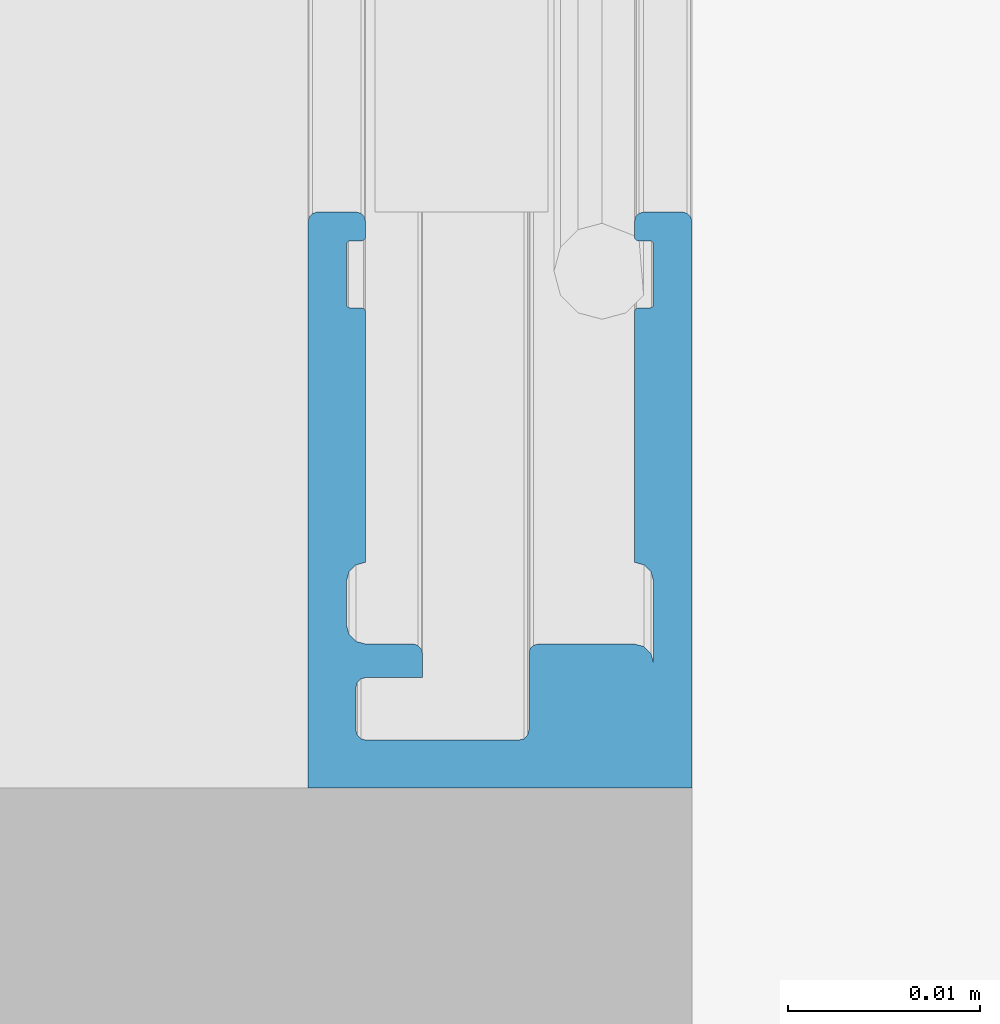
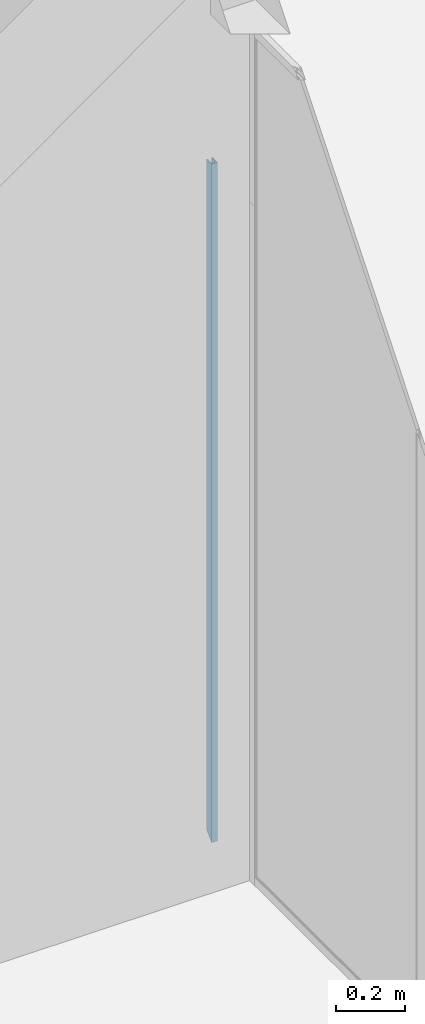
# One storey, part 62 of 387: 1 building element part, 2 elements without a shape of their own.
"""IFC2X3 building model written with IfcOpenShell, lengths in millimetres."""

from ifc_helpers import new_model, entity, si_unit, converted_unit, derived_unit, money_unit, direction, frame, origin_with_axes, place, context, subcontext, project, spatial, faceted_brep, source, transform, mapped, material, type_object, element, aggregate, save


model = new_model("IFC2X3")

# Units and contexts
model_context = context("Model", 3, precision=0.01, world=origin_with_axes(), true_north=direction((0.0, 1.0)))
body_context = subcontext(model_context, "Body", "Model", "MODEL_VIEW")
ifc_project = project(units=[si_unit("LENGTHUNIT", "METRE", prefix="MILLI"), si_unit("AREAUNIT", "SQUARE_METRE"), si_unit("VOLUMEUNIT", "CUBIC_METRE"), converted_unit("PLANEANGLEUNIT", "DEGREE", entity("IfcPlaneAngleMeasure", 0.0174532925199), si_unit("PLANEANGLEUNIT", "RADIAN"), dimensions=[0, 0, 0, 0, 0, 0, 0]), si_unit("SOLIDANGLEUNIT", "STERADIAN"), money_unit("EUR"), converted_unit("TIMEUNIT", "Year", entity("IfcTimeMeasure", 31556926.0), si_unit("TIMEUNIT", "SECOND"), dimensions=[0, 0, 1, 0, 0, 0, 0]), si_unit("MASSUNIT", "GRAM", prefix="KILO"), si_unit("THERMODYNAMICTEMPERATUREUNIT", "DEGREE_CELSIUS"), si_unit("LUMINOUSINTENSITYUNIT", "LUMEN"), si_unit("ENERGYUNIT", "JOULE", prefix="MEGA"), derived_unit("THERMALCONDUCTANCEUNIT", [(si_unit("POWERUNIT", "WATT"), 1), (si_unit("LENGTHUNIT", "METRE"), -1), (si_unit("THERMODYNAMICTEMPERATUREUNIT", "KELVIN"), -1)]), derived_unit("SPECIFICHEATCAPACITYUNIT", [(si_unit("ENERGYUNIT", "JOULE"), 1), (si_unit("MASSUNIT", "GRAM", prefix="KILO"), -1), (si_unit("THERMODYNAMICTEMPERATUREUNIT", "KELVIN"), -1)]), derived_unit("MASSDENSITYUNIT", [(si_unit("MASSUNIT", "GRAM", prefix="KILO"), 1), (si_unit("VOLUMEUNIT", "CUBIC_METRE"), -1)])], contexts=[model_context])

# Site, building, storey
site_placement = place(None, origin_with_axes())
site = spatial("IfcSite", under=ifc_project, at=site_placement, Name="Puškini 31, Narva", CompositionType="ELEMENT")
building_placement = place(site_placement, origin_with_axes())
building = spatial("IfcBuilding", under=site, at=building_placement, Name="Narva Riigigümnaasium", CompositionType="ELEMENT")
storey_placement = place(building_placement, frame((0.0, 0.0, 2640.0), z_axis=(0.0, 0.0, 1.0), x_axis=(1.0, 0.0, 0.0)))
storey = spatial("IfcBuildingStorey", under=building, at=storey_placement, Name="2.korrus +2.64", CompositionType="ELEMENT", Elevation=2640.0)

# Curtain wall, member, building element part
curtain_wall_type = type_object("IfcCurtainWallType", Name="Curtain Wall Type", PredefinedType="NOTDEFINED")
curtain_wall_placement = place(storey_placement, frame((28390.0000002, 176724.161139, -5.42380846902e-05), z_axis=(0.0, 0.0, 1.0), x_axis=(1.0, 0.0, 0.0)))
curtain_wall = element("IfcCurtainWall", 1, at=curtain_wall_placement, inside=storey, type_object=curtain_wall_type, Name="G-SKLF-12")
member_type = type_object("IfcMemberType", Name="30 x 10", PredefinedType="MULLION")
member_placement = place(curtain_wall_placement, frame((1.72022396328e-08, -1114.16106877, 0.0), z_axis=(0.0, 5.71766621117e-08, 1.0), x_axis=(0.0, 1.0, -5.71766621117e-08)))
member = element("IfcMember", 2, at=member_placement, type_object=member_type, Name="G-SKLF-17-raam", ObjectType="MULLION")
aggregate(curtain_wall, [member])
ifc_material = material(Name="ET-04_Alumiinium")
shared_shape = source(origin_with_axes(), body_context, "Body", "Brep", [
    faceted_brep([(0.0, -9.99999999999, 0.0), (0.0, 9.99999999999, 0.0), (0.0, 9.99999999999, 2400.00001337), (0.0, -9.99999999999, 2400.00001337), (-29.4424074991, -9.99999999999, 29.4424074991), (-29.7157683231, -9.95182408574, 29.7157683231), (-29.9224245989, -9.76651288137, 29.9224245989), (-30.0, -9.5, 30.0), (-30.0, -7.49999999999, 30.0), (-29.9330127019, -7.24999999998, 29.9330127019), (-29.75, -7.06698729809, 29.75), (-29.5, -6.99999999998, 29.5), (-28.7, -6.99999999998, 28.7), (-28.6, -7.02679491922, 28.6), (-28.5267949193, -7.09999999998, 28.5267949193), (-28.5, -7.19999999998, 28.5), (-28.5, -7.79999999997, 28.5), (-28.4732050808, -7.89999999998, 28.4732050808), (-28.4, -7.97320508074, 28.4), (-28.3, -7.99999999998, 28.3), (-25.2, -7.99999999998, 25.2), (-25.1, -7.97320508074, 25.1), (-25.0267949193, -7.89999999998, 25.0267949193), (-25.0, -7.79999999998, 25.0), (-25.0, -7.20000000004, 25.0), (-24.9732050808, -7.10000000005, 24.9732050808), (-24.9, -7.02679491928, 24.9), (-24.8, -7.00000000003, 24.8), (-11.7527616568, -6.99999999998, 11.7527616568), (-11.6187870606, -7.49999999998, 11.6187870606), (-11.2527616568, -7.86602540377, 11.2527616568), (-10.7527616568, -7.99999999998, 10.7527616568), (-8.49999999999, -8.00000000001, 8.49999999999), (-7.99999999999, -7.86602540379, 7.99999999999), (-7.63397459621, -7.50000000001, 7.63397459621), (-7.49999999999, -7.00000000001, 7.49999999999), (-7.49999999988, -4.5336921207, 7.49999999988), (-7.43301270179, -4.28369212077, 7.43301270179), (-7.24999999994, -4.10067941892, 7.24999999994), (-7.0, -4.03369212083, 7.0), (-5.74723834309, -4.03369212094, 5.74723834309), (-5.7472383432, -6.99999999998, 5.7472383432), (-5.6802510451, -7.24999999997, 5.6802510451), (-5.49723834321, -7.43301270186, 5.49723834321), (-5.24723834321, -7.49999999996, 5.24723834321), (-3.0, -7.49999999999, 3.0), (-2.75, -7.43301270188, 2.75), (-2.56698729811, -7.24999999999, 2.56698729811), (-2.5, -6.99999999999, 2.5), (-2.5, 1.00339466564, 2.5), (-2.56811176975, 1.25195735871, 2.56811176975), (-2.75096907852, 1.43357737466, 2.75096907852), (-2.99998847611, 1.50000000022, 2.99998847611), (-6.99999999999, 1.50000000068, 6.99999999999), (-7.24999999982, 1.56698729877, 7.24999999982), (-7.43301270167, 1.75000000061, 7.43301270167), (-7.49999999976, 2.00000000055, 7.49999999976), (-7.49999999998, 6.99999999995, 7.49999999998), (-7.36602540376, 7.49999999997, 7.36602540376), (-6.99999999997, 7.86602540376, 6.99999999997), (-6.49999999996, 7.99999999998, 6.49999999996), (-10.7527616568, 7.99999999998, 10.7527616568), (-11.2527616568, 7.86602540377, 11.2527616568), (-11.6187870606, 7.49999999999, 11.6187870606), (-11.7527616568, 6.99999999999, 11.7527616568), (-24.8, 7.00000000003, 24.8), (-24.9, 7.02679491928, 24.9), (-24.9732050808, 7.10000000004, 24.9732050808), (-25.0, 7.20000000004, 25.0), (-25.0, 7.8, 25.0), (-25.0267949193, 7.90000000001, 25.0267949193), (-25.1, 7.97320508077, 25.1), (-25.2, 8.00000000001, 25.2), (-28.3, 8.00000000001, 28.3), (-28.4104265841, 7.9658128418, 28.4104265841), (-28.4849473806, 7.87744178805, 28.4849473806), (-28.5, 7.76282847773, 28.5), (-28.5, 7.24760028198, 28.5), (-28.5, 7.19999999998, 28.5), (-28.5267949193, 7.09999999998, 28.5267949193), (-28.6, 7.02679491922, 28.6), (-28.7, 6.99999999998, 28.7), (-28.7609519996, 6.99999999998, 28.7609519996), (-29.5, 7.00000000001, 29.5), (-29.75, 7.06698729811, 29.75), (-29.9330127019, 7.24999999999, 29.9330127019), (-30.0, 7.49999999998, 30.0), (-30.0, 9.5, 30.0), (-29.9330127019, 9.75000000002, 29.9330127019), (-29.75, 9.93301270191, 29.75), (-29.5, 10.0, 29.5), (-29.5, 10.0, 2400.00001337), (-29.75, 9.93301270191, 2400.00001337), (-29.9330127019, 9.75000000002, 2400.00001337), (-30.0, 9.5, 2400.00001337), (-30.0, 7.49999999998, 2400.00001337), (-29.9330127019, 7.24999999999, 2400.00001337), (-29.75, 7.06698729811, 2400.00001337), (-29.5, 7.00000000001, 2400.00001337), (-28.7609519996, 6.99999999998, 2400.00001337), (-28.7, 6.99999999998, 2400.00001337), (-28.6, 7.02679491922, 2400.00001337), (-28.5267949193, 7.09999999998, 2400.00001337), (-28.5, 7.19999999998, 2400.00001337), (-28.5, 7.24760028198, 2400.00001337), (-28.5, 7.76282847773, 2400.00001337), (-28.4849473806, 7.87744178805, 2400.00001337), (-28.4104265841, 7.9658128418, 2400.00001337), (-28.3, 8.00000000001, 2400.00001337), (-25.2, 8.00000000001, 2400.00001337), (-25.1, 7.97320508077, 2400.00001337), (-25.0267949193, 7.90000000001, 2400.00001337), (-25.0, 7.8, 2400.00001337), (-25.0, 7.20000000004, 2400.00001337), (-24.9732050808, 7.10000000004, 2400.00001337), (-24.9, 7.02679491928, 2400.00001337), (-24.8, 7.00000000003, 2400.00001337), (-11.7527616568, 6.99999999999, 2400.00001337), (-11.6187870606, 7.49999999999, 2400.00001337), (-11.2527616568, 7.86602540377, 2400.00001337), (-10.7527616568, 7.99999999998, 2400.00001337), (-6.49999999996, 7.99999999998, 2400.00001337), (-6.99999999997, 7.86602540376, 2400.00001337), (-7.36602540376, 7.49999999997, 2400.00001337), (-7.49999999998, 6.99999999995, 2400.00001337), (-7.49999999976, 2.00000000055, 2400.00001337), (-7.43301270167, 1.75000000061, 2400.00001337), (-7.24999999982, 1.56698729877, 2400.00001337), (-6.99999999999, 1.50000000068, 2400.00001337), (-2.99998847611, 1.50000000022, 2400.00001337), (-2.75096907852, 1.43357737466, 2400.00001337), (-2.56811176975, 1.25195735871, 2400.00001337), (-2.5, 1.00339466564, 2400.00001337), (-2.5, -6.99999999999, 2400.00001337), (-2.56698729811, -7.24999999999, 2400.00001337), (-2.75, -7.43301270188, 2400.00001337), (-3.0, -7.49999999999, 2400.00001337), (-5.24723834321, -7.49999999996, 2400.00001337), (-5.49723834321, -7.43301270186, 2400.00001337), (-5.6802510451, -7.24999999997, 2400.00001337), (-5.7472383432, -6.99999999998, 2400.00001337), (-5.74723834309, -4.03369212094, 2400.00001337), (-7.0, -4.03369212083, 2400.00001337), (-7.24999999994, -4.10067941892, 2400.00001337), (-7.43301270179, -4.28369212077, 2400.00001337), (-7.49999999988, -4.5336921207, 2400.00001337), (-7.49999999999, -7.00000000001, 2400.00001337), (-7.63397459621, -7.50000000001, 2400.00001337), (-7.99999999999, -7.86602540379, 2400.00001337), (-8.49999999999, -8.00000000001, 2400.00001337), (-10.7527616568, -7.99999999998, 2400.00001337), (-11.2527616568, -7.86602540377, 2400.00001337), (-11.6187870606, -7.49999999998, 2400.00001337), (-11.7527616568, -6.99999999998, 2400.00001337), (-24.8, -7.00000000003, 2400.00001337), (-24.9, -7.02679491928, 2400.00001337), (-24.9732050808, -7.10000000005, 2400.00001337), (-25.0, -7.20000000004, 2400.00001337), (-25.0, -7.79999999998, 2400.00001337), (-25.0267949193, -7.89999999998, 2400.00001337), (-25.1, -7.97320508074, 2400.00001337), (-25.2, -7.99999999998, 2400.00001337), (-28.3, -7.99999999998, 2400.00001337), (-28.4, -7.97320508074, 2400.00001337), (-28.4732050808, -7.89999999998, 2400.00001337), (-28.5, -7.79999999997, 2400.00001337), (-28.5, -7.19999999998, 2400.00001337), (-28.5267949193, -7.09999999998, 2400.00001337), (-28.6, -7.02679491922, 2400.00001337), (-28.7, -6.99999999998, 2400.00001337), (-29.5, -6.99999999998, 2400.00001337), (-29.75, -7.06698729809, 2400.00001337), (-29.9330127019, -7.24999999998, 2400.00001337), (-30.0, -7.49999999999, 2400.00001337), (-30.0, -9.5, 2400.00001337), (-29.9224245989, -9.76651288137, 2400.00001337), (-29.7157683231, -9.95182408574, 2400.00001337), (-29.4424074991, -9.99999999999, 2400.00001337)], [[[0, 1, 2, 3]], [[1, 0, 4, 5, 6, 7, 8, 9, 10, 11, 12, 13, 14, 15, 16, 17, 18, 19, 20, 21, 22, 23, 24, 25, 26, 27, 28, 29, 30, 31, 32, 33, 34, 35, 36, 37, 38, 39, 40, 41, 42, 43, 44, 45, 46, 47, 48, 49, 50, 51, 52, 53, 54, 55, 56, 57, 58, 59, 60, 61, 62, 63, 64, 65, 66, 67, 68, 69, 70, 71, 72, 73, 74, 75, 76, 77, 78, 79, 80, 81, 82, 83, 84, 85, 86, 87, 88, 89, 90]], [[1, 90, 91, 2]], [[2, 91, 92, 93, 94, 95, 96, 97, 98, 99, 100, 101, 102, 103, 104, 105, 106, 107, 108, 109, 110, 111, 112, 113, 114, 115, 116, 117, 118, 119, 120, 121, 122, 123, 124, 125, 126, 127, 128, 129, 130, 131, 132, 133, 134, 135, 136, 137, 138, 139, 140, 141, 142, 143, 144, 145, 146, 147, 148, 149, 150, 151, 152, 153, 154, 155, 156, 157, 158, 159, 160, 161, 162, 163, 164, 165, 166, 167, 168, 169, 170, 171, 172, 173, 174, 175, 176, 177, 3]], [[4, 0, 3, 177]], [[5, 4, 177, 176]], [[6, 5, 176, 175]], [[7, 6, 175, 174]], [[8, 7, 174, 173]], [[9, 8, 173, 172]], [[10, 9, 172, 171]], [[11, 10, 171, 170]], [[12, 11, 170, 169]], [[13, 12, 169, 168]], [[14, 13, 168, 167]], [[15, 14, 167, 166]], [[16, 15, 166, 165]], [[17, 16, 165, 164]], [[18, 17, 164, 163]], [[19, 18, 163, 162]], [[20, 19, 162, 161]], [[21, 20, 161, 160]], [[22, 21, 160, 159]], [[23, 22, 159, 158]], [[24, 23, 158, 157]], [[25, 24, 157, 156]], [[26, 25, 156, 155]], [[27, 26, 155, 154]], [[28, 27, 154, 153]], [[29, 28, 153, 152]], [[30, 29, 152, 151]], [[31, 30, 151, 150]], [[32, 31, 150, 149]], [[33, 32, 149, 148]], [[34, 33, 148, 147]], [[35, 34, 147, 146]], [[36, 35, 146, 145]], [[37, 36, 145, 144]], [[38, 37, 144, 143]], [[39, 38, 143, 142]], [[40, 39, 142, 141]], [[41, 40, 141, 140]], [[42, 41, 140, 139]], [[43, 42, 139, 138]], [[44, 43, 138, 137]], [[45, 44, 137, 136]], [[46, 45, 136, 135]], [[47, 46, 135, 134]], [[48, 47, 134, 133]], [[49, 48, 133, 132]], [[50, 49, 132, 131]], [[51, 50, 131, 130]], [[52, 51, 130, 129]], [[53, 52, 129, 128]], [[54, 53, 128, 127]], [[55, 54, 127, 126]], [[56, 55, 126, 125]], [[57, 56, 125, 124]], [[58, 57, 124, 123]], [[59, 58, 123, 122]], [[60, 59, 122, 121]], [[61, 60, 121, 120]], [[62, 61, 120, 119]], [[63, 62, 119, 118]], [[64, 63, 118, 117]], [[65, 64, 117, 116]], [[66, 65, 116, 115]], [[67, 66, 115, 114]], [[68, 67, 114, 113]], [[69, 68, 113, 112]], [[70, 69, 112, 111]], [[71, 70, 111, 110]], [[72, 71, 110, 109]], [[73, 72, 109, 108]], [[74, 73, 108, 107]], [[75, 74, 107, 106]], [[76, 75, 106, 105]], [[77, 76, 105, 104]], [[78, 77, 104, 103]], [[79, 78, 103, 102]], [[80, 79, 102, 101]], [[81, 80, 101, 100]], [[82, 81, 100, 99]], [[83, 82, 99, 98]], [[84, 83, 98, 97]], [[85, 84, 97, 96]], [[86, 85, 96, 95]], [[87, 86, 95, 94]], [[88, 87, 94, 93]], [[89, 88, 93, 92]], [[90, 89, 92, 91]]]),
])
building_element_part_placement = place(member_placement, origin_with_axes())
building_element_part = element("IfcBuildingElementPart", 3, at=building_element_part_placement, material=ifc_material, Name="ET-04_Alumiinium", context=body_context, shape_type="MappedRepresentation", body=[
    mapped(shared_shape, transform((0.0, 0.0, 0.0), x_axis=(-1.0, 0.0, -5.71766621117e-08), y_axis=(0.0, -1.0, 0.0), z_axis=(-5.71766621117e-08, 0.0, 1.0))),
])
aggregate(member, [building_element_part])

save(model, "model.ifc")
